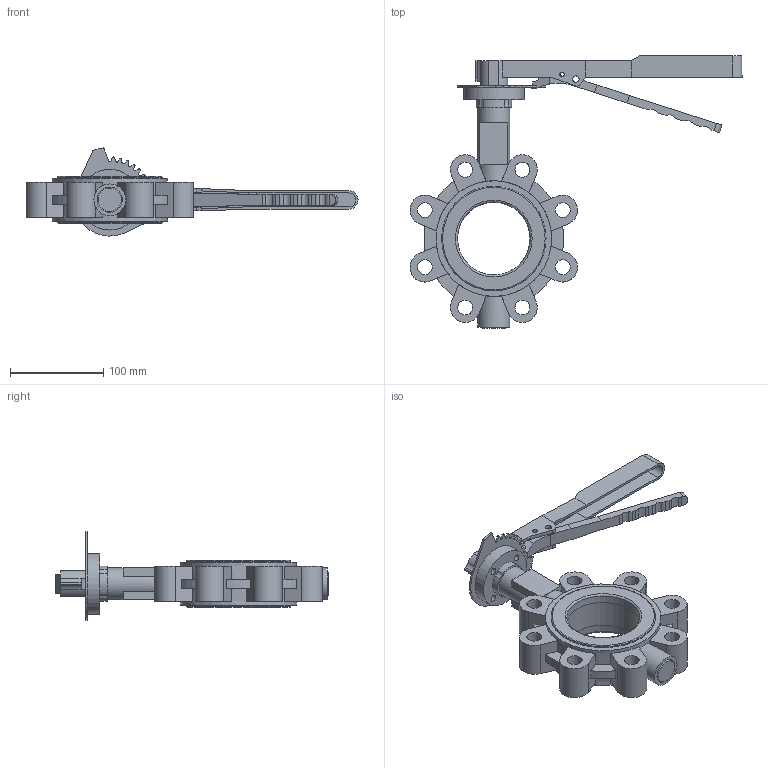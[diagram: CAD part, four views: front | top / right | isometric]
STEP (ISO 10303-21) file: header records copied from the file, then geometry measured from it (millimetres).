
FILE_DESCRIPTION (( 'STEP AP203' ), '1' );
FILE_NAME ('2502 LT型中线衬胶带销 手柄蝶阀 DN80 PN25 CD0309070.STEP', '2026-04-14T00:26:50', ( '' ), ( '' ), 'SwSTEP 2.0', 'SolidWorks 2018', '' );
FILE_SCHEMA (( 'CONFIG_CONTROL_DESIGN' ));
Length unit declared in the file: millimetre
Products named in the file (8): YH-D50-80-06Y-01 DN40-DN80 喘攫; 新型玛钢手柄副手柄(长)-DN50-DN80-9004; 新型玛钢手柄装配体-DN50-DN80-立方11-9004; 2502 LT型中线衬胶带销 手柄蝶阀 DN80 PN25 CD0309070; DIN908 塞堵M20×1.5; GALA-D80-04AZC-00; GALA-D80-01LC25-00; 新型玛钢手柄主手柄(长)-DN50-DN80-立方9-9004
Assembly tree (7 placements, depth 3):
  2502 LT型中线衬胶带销 手柄蝶阀 DN80 PN25 CD0309070
    GALA-D80-01LC25-00
    GALA-D80-04AZC-00
    DIN908 塞堵M20×1.5
    YH-D50-80-06Y-01 DN40-DN80 喘攫
    新型玛钢手柄装配体-DN50-DN80-立方11-9004
      新型玛钢手柄副手柄(长)-DN50-DN80-9004
      新型玛钢手柄主手柄(长)-DN50-DN80-立方9-9004
Bounding box: 356.07 x 292 x 94.53 mm (x, y, z)
Volume: 856198.5 mm3; surface area: 213026.4 mm2
Topology: 6 solids, 6 shells, 322 faces, 884 edges, 579 vertices
Faces by surface type: plane 166, cylinder 142, torus 8, cone 6
Full cylindrical faces by diameter (mm): 5 x4, 7 x10, 16 x8, 20 x1, 25 x2, 27 x1, 34 x2, 65 x1, 77.716 x1, 87 x2, 112 x4, 124 x2
Entity records: 11061 total; most frequent: CARTESIAN_POINT 1965, DIRECTION 1781, ORIENTED_EDGE 1646, EDGE_CURVE 823, AXIS2_PLACEMENT_3D 653, VERTEX_POINT 571, LINE 475, VECTOR 475
